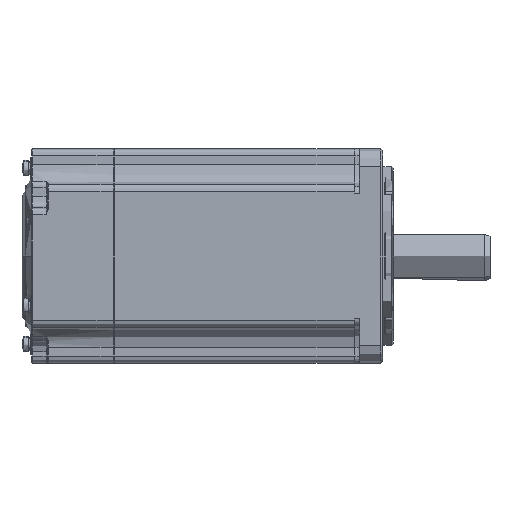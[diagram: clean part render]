
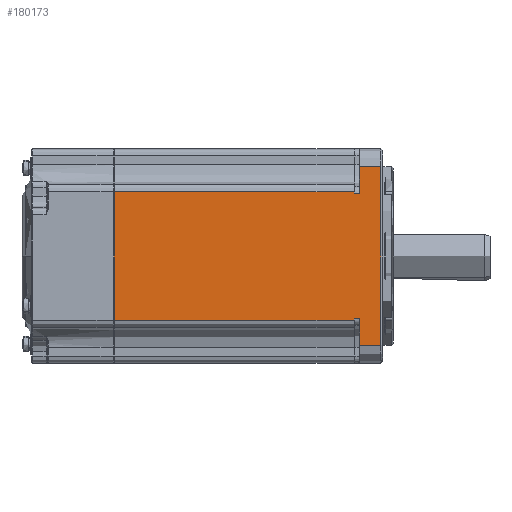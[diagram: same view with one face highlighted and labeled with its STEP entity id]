
A CAD part, front view. The second image highlights one B-rep face of the part: STEP entity #180173.
In plain terms, the highlighted planar face has unit normal (0, -1, 0).
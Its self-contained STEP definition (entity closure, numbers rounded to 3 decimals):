
#241 = ORIENTED_EDGE ( 'NONE', *, *, #4739, .T. ) ;
#3378 = ORIENTED_EDGE ( 'NONE', *, *, #146351, .T. ) ;
#3660 = ORIENTED_EDGE ( 'NONE', *, *, #45681, .T. ) ;
#4366 = CARTESIAN_POINT ( 'NONE',  ( 19.052, -79.847, 163.323 ) ) ;
#4739 = EDGE_CURVE ( 'NONE', #178496, #192089, #36117, .T. ) ;
#7266 = EDGE_CURVE ( 'NONE', #146793, #185263, #145886, .T. ) ;
#7290 = CARTESIAN_POINT ( 'NONE',  ( -136.301, -79.847, 168.323 ) ) ;
#12834 = DIRECTION ( 'NONE',  ( -1., 0., 0. ) ) ;
#13142 = VERTEX_POINT ( 'NONE', #164210 ) ;
#14804 = CARTESIAN_POINT ( 'NONE',  ( -136.301, -79.847, 113.323 ) ) ;
#17929 = CARTESIAN_POINT ( 'NONE',  ( 17.452, -79.847, 120.323 ) ) ;
#17981 = VERTEX_POINT ( 'NONE', #17929 ) ;
#20376 = DIRECTION ( 'NONE',  ( 0., 0., 1. ) ) ;
#25694 = EDGE_CURVE ( 'NONE', #177565, #87187, #193357, .T. ) ;
#25804 = DIRECTION ( 'NONE',  ( 1., 0., 0. ) ) ;
#26288 = VECTOR ( 'NONE', #90220, 1000. ) ;
#26451 = VERTEX_POINT ( 'NONE', #101423 ) ;
#26712 = EDGE_CURVE ( 'NONE', #27372, #82137, #167358, .T. ) ;
#27372 = VERTEX_POINT ( 'NONE', #41004 ) ;
#36117 = LINE ( 'NONE', #88890, #26288 ) ;
#38199 = CARTESIAN_POINT ( 'NONE',  ( -49.648, -79.847, 120.323 ) ) ;
#41004 = CARTESIAN_POINT ( 'NONE',  ( 17.452, -79.847, 155.823 ) ) ;
#44282 = DIRECTION ( 'NONE',  ( 1., 0., 0. ) ) ;
#45681 = EDGE_CURVE ( 'NONE', #192089, #82137, #153863, .T. ) ;
#47565 = DIRECTION ( 'NONE',  ( 0., 0., 1. ) ) ;
#51623 = ORIENTED_EDGE ( 'NONE', *, *, #198661, .T. ) ;
#56341 = CARTESIAN_POINT ( 'NONE',  ( 42.722, -79.847, 156.323 ) ) ;
#60893 = LINE ( 'NONE', #78581, #70770 ) ;
#61395 = DIRECTION ( 'NONE',  ( 0., 0., -1. ) ) ;
#66774 = LINE ( 'NONE', #197195, #120705 ) ;
#70770 = VECTOR ( 'NONE', #203242, 1000. ) ;
#71038 = DIRECTION ( 'NONE',  ( 0., -1., 0. ) ) ;
#71310 = CARTESIAN_POINT ( 'NONE',  ( 19.052, -79.847, 120.823 ) ) ;
#76710 = CARTESIAN_POINT ( 'NONE',  ( 17.652, -79.847, 155.823 ) ) ;
#78140 = VECTOR ( 'NONE', #44282, 1000. ) ;
#78459 = CARTESIAN_POINT ( 'NONE',  ( 17.452, -79.847, 156.323 ) ) ;
#78581 = CARTESIAN_POINT ( 'NONE',  ( 19.052, -79.847, 168.323 ) ) ;
#80979 = CARTESIAN_POINT ( 'NONE',  ( 42.722, -79.847, 120.323 ) ) ;
#82137 = VERTEX_POINT ( 'NONE', #114468 ) ;
#87187 = VERTEX_POINT ( 'NONE', #190168 ) ;
#88890 = CARTESIAN_POINT ( 'NONE',  ( -136.301, -79.847, 163.323 ) ) ;
#90220 = DIRECTION ( 'NONE',  ( -1., 0., 0. ) ) ;
#99531 = VECTOR ( 'NONE', #47565, 1000. ) ;
#101423 = CARTESIAN_POINT ( 'NONE',  ( 17.452, -79.847, 156.323 ) ) ;
#104399 = VECTOR ( 'NONE', #12834, 1000. ) ;
#106218 = ORIENTED_EDGE ( 'NONE', *, *, #25694, .T. ) ;
#108458 = DIRECTION ( 'NONE',  ( 0., 0., 1. ) ) ;
#112157 = VECTOR ( 'NONE', #61395, 1000. ) ;
#114232 = LINE ( 'NONE', #80979, #104399 ) ;
#114468 = CARTESIAN_POINT ( 'NONE',  ( 19.052, -79.847, 155.823 ) ) ;
#114973 = EDGE_LOOP ( 'NONE', ( #127313, #195050, #3378, #167035, #129187, #106218, #194619, #241, #3660, #186535, #126292, #51623 ) ) ;
#117172 = CARTESIAN_POINT ( 'NONE',  ( -49.648, -79.847, 156.323 ) ) ;
#117539 = CARTESIAN_POINT ( 'NONE',  ( -49.648, -79.847, 168.323 ) ) ;
#120705 = VECTOR ( 'NONE', #25804, 1000. ) ;
#123137 = CARTESIAN_POINT ( 'NONE',  ( 19.052, -79.847, 168.323 ) ) ;
#126292 = ORIENTED_EDGE ( 'NONE', *, *, #194629, .T. ) ;
#127313 = ORIENTED_EDGE ( 'NONE', *, *, #7266, .F. ) ;
#128105 = CARTESIAN_POINT ( 'NONE',  ( 17.452, -79.847, 120.823 ) ) ;
#128850 = VECTOR ( 'NONE', #164885, 1000. ) ;
#129187 = ORIENTED_EDGE ( 'NONE', *, *, #145426, .T. ) ;
#129385 = DIRECTION ( 'NONE',  ( 1., 0., 0. ) ) ;
#132062 = PLANE ( 'NONE',  #198054 ) ;
#135615 = VERTEX_POINT ( 'NONE', #71310 ) ;
#140282 = LINE ( 'NONE', #56341, #174558 ) ;
#140352 = VECTOR ( 'NONE', #129385, 1000. ) ;
#145426 = EDGE_CURVE ( 'NONE', #135615, #177565, #60893, .T. ) ;
#145886 = LINE ( 'NONE', #117539, #128850 ) ;
#146351 = EDGE_CURVE ( 'NONE', #17981, #13142, #168576, .T. ) ;
#146793 = VERTEX_POINT ( 'NONE', #38199 ) ;
#153863 = LINE ( 'NONE', #123137, #112157 ) ;
#158421 = LINE ( 'NONE', #78459, #99531 ) ;
#164210 = CARTESIAN_POINT ( 'NONE',  ( 17.452, -79.847, 120.823 ) ) ;
#164282 = DIRECTION ( 'NONE',  ( 0., 0., -1. ) ) ;
#164885 = DIRECTION ( 'NONE',  ( 0., 0., 1. ) ) ;
#167035 = ORIENTED_EDGE ( 'NONE', *, *, #174321, .T. ) ;
#167358 = LINE ( 'NONE', #76710, #140352 ) ;
#168576 = LINE ( 'NONE', #128105, #173463 ) ;
#173463 = VECTOR ( 'NONE', #20376, 1000. ) ;
#174321 = EDGE_CURVE ( 'NONE', #13142, #135615, #66774, .T. ) ;
#174558 = VECTOR ( 'NONE', #194833, 1000. ) ;
#175621 = VECTOR ( 'NONE', #108458, 1000. ) ;
#177565 = VERTEX_POINT ( 'NONE', #178182 ) ;
#178182 = CARTESIAN_POINT ( 'NONE',  ( 19.052, -79.847, 113.323 ) ) ;
#178496 = VERTEX_POINT ( 'NONE', #184815 ) ;
#180079 = EDGE_CURVE ( 'NONE', #17981, #146793, #114232, .T. ) ;
#180173 = ADVANCED_FACE ( 'NONE', ( #197612 ), #132062, .T. ) ;
#184815 = CARTESIAN_POINT ( 'NONE',  ( 24.952, -79.847, 163.323 ) ) ;
#185263 = VERTEX_POINT ( 'NONE', #117172 ) ;
#186535 = ORIENTED_EDGE ( 'NONE', *, *, #26712, .F. ) ;
#190168 = CARTESIAN_POINT ( 'NONE',  ( 24.952, -79.847, 113.323 ) ) ;
#192089 = VERTEX_POINT ( 'NONE', #4366 ) ;
#192659 = LINE ( 'NONE', #201022, #175621 ) ;
#193357 = LINE ( 'NONE', #14804, #78140 ) ;
#194619 = ORIENTED_EDGE ( 'NONE', *, *, #201223, .T. ) ;
#194629 = EDGE_CURVE ( 'NONE', #27372, #26451, #158421, .T. ) ;
#194833 = DIRECTION ( 'NONE',  ( -1., 0., 0. ) ) ;
#195050 = ORIENTED_EDGE ( 'NONE', *, *, #180079, .F. ) ;
#197195 = CARTESIAN_POINT ( 'NONE',  ( 17.652, -79.847, 120.823 ) ) ;
#197612 = FACE_OUTER_BOUND ( 'NONE', #114973, .T. ) ;
#198054 = AXIS2_PLACEMENT_3D ( 'NONE', #7290, #71038, #164282 ) ;
#198661 = EDGE_CURVE ( 'NONE', #26451, #185263, #140282, .T. ) ;
#201022 = CARTESIAN_POINT ( 'NONE',  ( 24.952, -79.847, 163.323 ) ) ;
#201223 = EDGE_CURVE ( 'NONE', #87187, #178496, #192659, .T. ) ;
#203242 = DIRECTION ( 'NONE',  ( 0., 0., -1. ) ) ;
